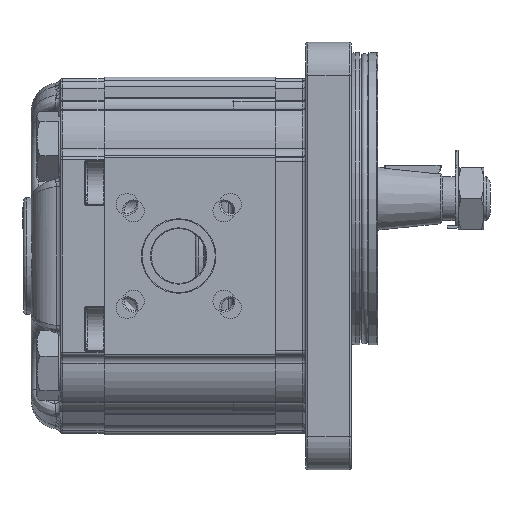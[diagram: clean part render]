
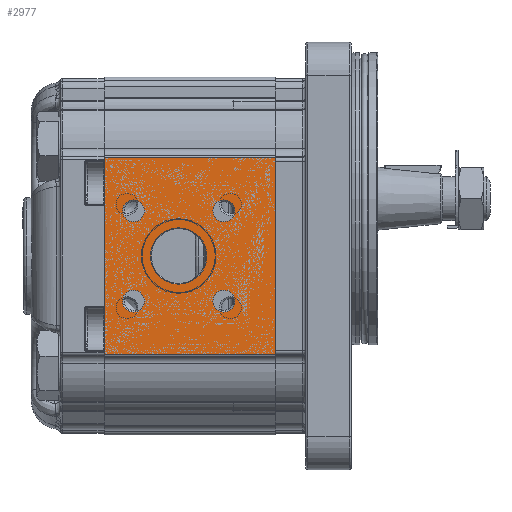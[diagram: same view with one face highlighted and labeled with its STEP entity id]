
A CAD part, left-side view. The second image highlights one B-rep face of the part: STEP entity #2977.
In plain terms, the highlighted planar face has unit normal (-1, 0, 0) as drawn and (1, 0, 0) by its records, which use the part's own axes.
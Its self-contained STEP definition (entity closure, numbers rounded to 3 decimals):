
#2977 = ADVANCED_FACE( '', ( #7302, #7303, #7304, #7305, #7306, #7307 ), #7308, .T. );
#7302 = FACE_BOUND( '', #14269, .T. );
#7303 = FACE_BOUND( '', #14270, .T. );
#7304 = FACE_BOUND( '', #14271, .T. );
#7305 = FACE_BOUND( '', #14272, .T. );
#7306 = FACE_BOUND( '', #14273, .T. );
#7307 = FACE_OUTER_BOUND( '', #14274, .T. );
#7308 = PLANE( '', #14275 );
#14269 = EDGE_LOOP( '', ( #27082 ) );
#14270 = EDGE_LOOP( '', ( #27083 ) );
#14271 = EDGE_LOOP( '', ( #27084 ) );
#14272 = EDGE_LOOP( '', ( #27085 ) );
#14273 = EDGE_LOOP( '', ( #27086 ) );
#14274 = EDGE_LOOP( '', ( #27087, #27088, #27089, #27090 ) );
#14275 = AXIS2_PLACEMENT_3D( '', #27091, #27092, #27093 );
#27082 = ORIENTED_EDGE( '', *, *, #41236, .T. );
#27083 = ORIENTED_EDGE( '', *, *, #41237, .T. );
#27084 = ORIENTED_EDGE( '', *, *, #41238, .T. );
#27085 = ORIENTED_EDGE( '', *, *, #41239, .T. );
#27086 = ORIENTED_EDGE( '', *, *, #41240, .T. );
#27087 = ORIENTED_EDGE( '', *, *, #41241, .F. );
#27088 = ORIENTED_EDGE( '', *, *, #41242, .F. );
#27089 = ORIENTED_EDGE( '', *, *, #38237, .T. );
#27090 = ORIENTED_EDGE( '', *, *, #41243, .T. );
#27091 = CARTESIAN_POINT( '', ( 43., 47., 27.048 ) );
#27092 = DIRECTION( '', ( 1., 0., 0. ) );
#27093 = DIRECTION( '', ( 0., 0., -1. ) );
#38237 = EDGE_CURVE( '', #44715, #44713, #44716, .T. );
#41236 = EDGE_CURVE( '', #49680, #49680, #49681, .F. );
#41237 = EDGE_CURVE( '', #49682, #49682, #49683, .F. );
#41238 = EDGE_CURVE( '', #49684, #49684, #49685, .F. );
#41239 = EDGE_CURVE( '', #49686, #49686, #49687, .F. );
#41240 = EDGE_CURVE( '', #49688, #49688, #49689, .F. );
#41241 = EDGE_CURVE( '', #49690, #49691, #49692, .T. );
#41242 = EDGE_CURVE( '', #44715, #49690, #49693, .T. );
#41243 = EDGE_CURVE( '', #44713, #49691, #49694, .T. );
#44713 = VERTEX_POINT( '', #54056 );
#44715 = VERTEX_POINT( '', #54058 );
#44716 = LINE( '', #54059, #54060 );
#49680 = VERTEX_POINT( '', #65254 );
#49681 = CIRCLE( '', #65255, 7.7 );
#49682 = VERTEX_POINT( '', #65256 );
#49683 = CIRCLE( '', #65257, 3. );
#49684 = VERTEX_POINT( '', #65258 );
#49685 = CIRCLE( '', #65259, 3. );
#49686 = VERTEX_POINT( '', #65260 );
#49687 = CIRCLE( '', #65261, 3. );
#49688 = VERTEX_POINT( '', #65262 );
#49689 = CIRCLE( '', #65263, 3. );
#49690 = VERTEX_POINT( '', #65264 );
#49691 = VERTEX_POINT( '', #65265 );
#49692 = LINE( '', #65266, #65267 );
#49693 = LINE( '', #65268, #65269 );
#49694 = LINE( '', #65270, #65271 );
#54056 = CARTESIAN_POINT( '', ( 43., 47., 27.048 ) );
#54058 = CARTESIAN_POINT( '', ( 43., 47., -27.048 ) );
#54059 = CARTESIAN_POINT( '', ( 43., 47., 27.048 ) );
#54060 = VECTOR( '', #74053, 1000. );
#65254 = CARTESIAN_POINT( '', ( 43., 26.6, -7.7 ) );
#65255 = AXIS2_PLACEMENT_3D( '', #77611, #77612, #77613 );
#65256 = CARTESIAN_POINT( '', ( 43., 38.974, -15.374 ) );
#65257 = AXIS2_PLACEMENT_3D( '', #77614, #77615, #77616 );
#65258 = CARTESIAN_POINT( '', ( 43., 38.974, 9.374 ) );
#65259 = AXIS2_PLACEMENT_3D( '', #77617, #77618, #77619 );
#65260 = CARTESIAN_POINT( '', ( 43., 14.226, 9.374 ) );
#65261 = AXIS2_PLACEMENT_3D( '', #77620, #77621, #77622 );
#65262 = CARTESIAN_POINT( '', ( 43., 14.226, -15.374 ) );
#65263 = AXIS2_PLACEMENT_3D( '', #77623, #77624, #77625 );
#65264 = CARTESIAN_POINT( '', ( 43., 0., -27.048 ) );
#65265 = CARTESIAN_POINT( '', ( 43., 0., 27.048 ) );
#65266 = CARTESIAN_POINT( '', ( 43., 0., 27.048 ) );
#65267 = VECTOR( '', #77626, 1000. );
#65268 = CARTESIAN_POINT( '', ( 43., 47., -27.048 ) );
#65269 = VECTOR( '', #77627, 1000. );
#65270 = CARTESIAN_POINT( '', ( 43., 47., 27.048 ) );
#65271 = VECTOR( '', #77628, 1000. );
#74053 = DIRECTION( '', ( 0., 0., 1. ) );
#77611 = CARTESIAN_POINT( '', ( 43., 26.6, 0. ) );
#77612 = DIRECTION( '', ( 1., 0., 0. ) );
#77613 = DIRECTION( '', ( 0., 0., -1. ) );
#77614 = CARTESIAN_POINT( '', ( 43., 38.974, -12.374 ) );
#77615 = DIRECTION( '', ( 1., 0., 0. ) );
#77616 = DIRECTION( '', ( 0., 0., -1. ) );
#77617 = CARTESIAN_POINT( '', ( 43., 38.974, 12.374 ) );
#77618 = DIRECTION( '', ( 1., 0., 0. ) );
#77619 = DIRECTION( '', ( 0., 0., -1. ) );
#77620 = CARTESIAN_POINT( '', ( 43., 14.226, 12.374 ) );
#77621 = DIRECTION( '', ( 1., 0., 0. ) );
#77622 = DIRECTION( '', ( 0., 0., -1. ) );
#77623 = CARTESIAN_POINT( '', ( 43., 14.226, -12.374 ) );
#77624 = DIRECTION( '', ( 1., 0., 0. ) );
#77625 = DIRECTION( '', ( 0., 0., -1. ) );
#77626 = DIRECTION( '', ( 0., 0., 1. ) );
#77627 = DIRECTION( '', ( 0., -1., 0. ) );
#77628 = DIRECTION( '', ( 0., -1., 0. ) );
